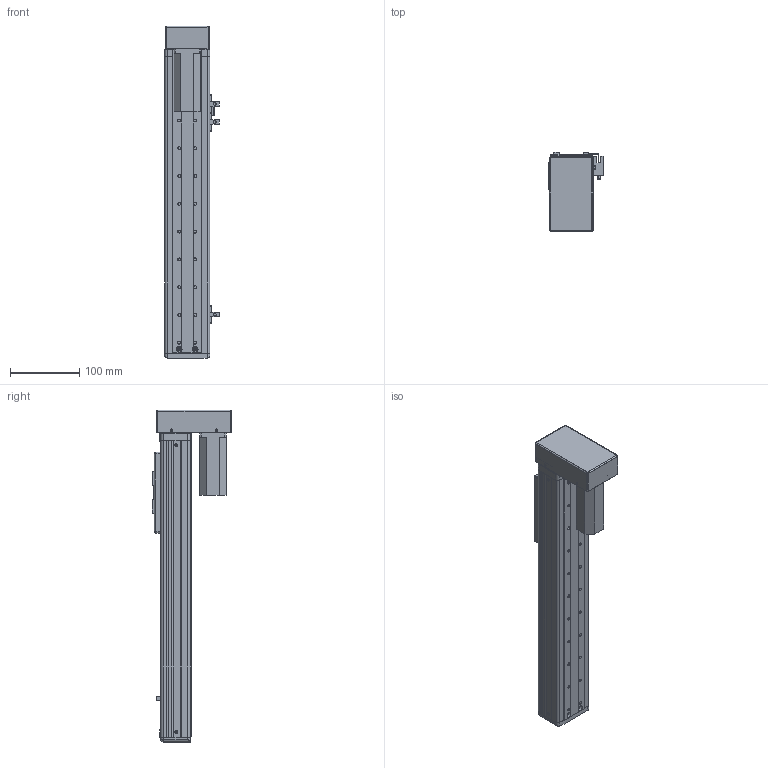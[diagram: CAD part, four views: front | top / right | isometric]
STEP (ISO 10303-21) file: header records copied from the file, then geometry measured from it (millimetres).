
FILE_DESCRIPTION (( 'STEP AP203' ), '1' );
FILE_NAME ('RY60F-L1210-300-BK.SLDASM_250.step', '2021-03-02T06:47:14', ( '盈信电脑' ), ( '东莞市道滘镇水果街19号' ), 'SwSTEP 2.0', 'SolidWorks 2012', '' );
FILE_SCHEMA (( 'CONFIG_CONTROL_DESIGN' ));
Length unit declared in the file: millimetre
Products named in the file (17): RY60F-L1210-300-BK.SLDASM_250; 侂狟100W; RY60F-狟殏萇儂假蚾啣(100W PCD45 M3); RY60F-转折电机端丝杆安装座; RY60F-狟殏萇儂欶(100W); 俋噤12酗38滅袉蝶; RY60F-300-蛌殏滅鳥詩え-BK_250; RY50F-300-MR15W蛌殏絳寢-BK_250; 俋噤12酗29滅袉蝶; RY60F-祥凄詩滅鳥裔; RY50-60詩湍揤啣; 覜茼ん672; RY60F-L1210-300-BK蛌殏俋褲_250; RY60F-嫖萇羲壽結え; RY60F-滅鳥詩え盓殤; RY60F-浮动端丝杆支撑座; RY60F-臏賑輸
Assembly tree (20 placements, depth 2):
  RY60F-L1210-300-BK.SLDASM_250
    RY60F-臏賑輸
    RY60F-浮动端丝杆支撑座
    RY60F-滅鳥詩え盓殤
    RY60F-嫖萇羲壽結え
    RY50-60詩湍揤啣  x2
    RY60F-祥凄詩滅鳥裔
    RY60F-L1210-300-BK蛌殏俋褲_250  x2
    覜茼ん672  x3
    RY60F-300-蛌殏滅鳥詩え-BK_250
    RY50F-300-MR15W蛌殏絳寢-BK_250
    俋噤12酗29滅袉蝶
    俋噤12酗38滅袉蝶
    侂狟100W
    RY60F-转折电机端丝杆安装座
    RY60F-狟殏萇儂假蚾啣(100W PCD45 M3)
    RY60F-狟殏萇儂欶(100W)
Bounding box: 78.7 x 114 x 478 mm (x, y, z)
Volume: 582261.3 mm3; surface area: 373917.5 mm2
Topology: 20 solids, 21 shells, 1045 faces, 2842 edges, 1799 vertices
Faces by surface type: cylinder 470, plane 463, cone 94, bspline 18
Entity records: 31822 total; most frequent: CARTESIAN_POINT 6170, DIRECTION 5041, ORIENTED_EDGE 4848, EDGE_CURVE 2424, AXIS2_PLACEMENT_3D 1790, VERTEX_POINT 1575, LINE 1461, VECTOR 1461
